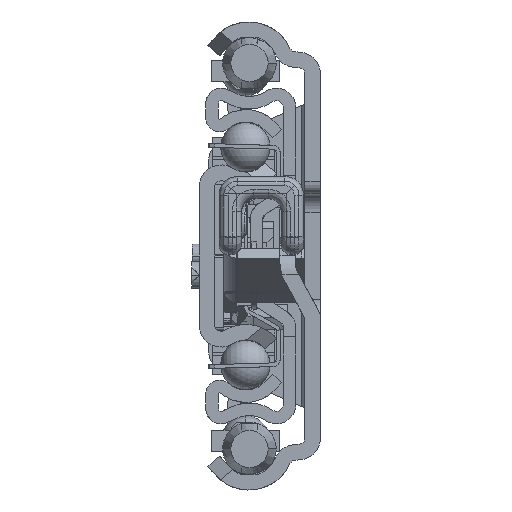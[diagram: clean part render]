
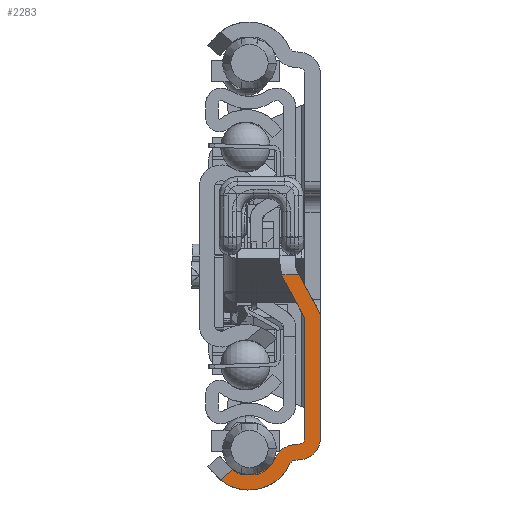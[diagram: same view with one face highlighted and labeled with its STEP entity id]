
A CAD part, left-side view. The second image highlights one B-rep face of the part: STEP entity #2283.
In plain terms, the highlighted planar face has unit normal (-1, 0, 0).
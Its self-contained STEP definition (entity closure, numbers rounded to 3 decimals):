
#45=DIRECTION('',(0.,0.769,-0.639));
#46=VECTOR('',#45,2.575);
#47=CARTESIAN_POINT('',(0.,14.098,-34.377));
#48=LINE('',#47,#46);
#49=CARTESIAN_POINT('',(0.,11.5,-30.4));
#50=DIRECTION('',(-1.,0.,0.));
#51=DIRECTION('',(0.,0.547,-0.837));
#52=AXIS2_PLACEMENT_3D('',#49,#50,#51);
#54=CARTESIAN_POINT('',(0.,4.008,-33.854));
#55=DIRECTION('',(-1.,0.,0.));
#56=DIRECTION('',(0.,0.087,0.996));
#57=AXIS2_PLACEMENT_3D('',#54,#55,#56);
#59=DIRECTION('',(0.,-0.996,0.087));
#60=VECTOR('',#59,0.904);
#61=CARTESIAN_POINT('',(0.,4.313,-30.368));
#62=LINE('',#61,#60);
#63=DIRECTION('',(0.,0.,1.));
#64=VECTOR('',#63,19.293);
#65=CARTESIAN_POINT('',(0.,2.5,-29.293));
#66=LINE('',#65,#64);
#67=DIRECTION('',(0.,-0.477,-0.879));
#68=VECTOR('',#67,6.873);
#69=CARTESIAN_POINT('',(0.,5.775,-3.958));
#70=LINE('',#69,#68);
#71=CARTESIAN_POINT('',(0.,0.5,-1.099));
#72=DIRECTION('',(-1.,0.,0.));
#73=DIRECTION('',(0.,0.946,-0.324));
#74=AXIS2_PLACEMENT_3D('',#71,#72,#73);
#76=DIRECTION('',(0.,1.,0.));
#77=VECTOR('',#76,2.78);
#78=CARTESIAN_POINT('',(0.,3.397,-3.04));
#79=LINE('',#78,#77);
#80=CARTESIAN_POINT('',(0.,2.5,-9.942));
#81=DIRECTION('',(1.,0.,0.));
#82=DIRECTION('',(0.,-0.879,0.477));
#83=AXIS2_PLACEMENT_3D('',#80,#81,#82);
#85=CARTESIAN_POINT('',(0.,3.5,-29.293));
#86=DIRECTION('',(-1.,0.,0.));
#87=DIRECTION('',(0.,-0.087,-0.996));
#88=AXIS2_PLACEMENT_3D('',#85,#86,#87);
#90=DIRECTION('',(0.,0.996,-0.087));
#91=VECTOR('',#90,0.904);
#92=CARTESIAN_POINT('',(0.,3.195,-32.78));
#93=LINE('',#92,#91);
#94=CARTESIAN_POINT('',(0.,11.5,-30.4));
#95=DIRECTION('',(1.,0.,0.));
#96=DIRECTION('',(0.,-0.908,-0.419));
#97=AXIS2_PLACEMENT_3D('',#94,#95,#96);
#615=DIRECTION('',(0.,0.,1.));
#616=VECTOR('',#615,19.351);
#617=CARTESIAN_POINT('',(0.,0.,-29.293));
#618=LINE('',#617,#616);
#1022=CARTESIAN_POINT('',(0.,16.079,-36.021));
#1075=CARTESIAN_POINT('',(0.,14.098,
-34.377));
#1364=CARTESIAN_POINT('',(0.,3.5,-29.293));
#1365=DIRECTION('',(1.,0.,0.));
#1366=DIRECTION('',(0.,-1.,0.));
#1367=AXIS2_PLACEMENT_3D('',#1364,#1365,#1366);
#1374=CARTESIAN_POINT('',(0.,4.008,-33.854));
#1375=DIRECTION('',(1.,0.,0.));
#1376=DIRECTION('',(0.,0.908,0.419));
#1377=AXIS2_PLACEMENT_3D('',#1374,#1375,#1376);
#1414=DIRECTION('',(0.,0.477,0.879));
#1415=VECTOR('',#1414,6.495);
#1416=CARTESIAN_POINT('',(0.,0.302,-8.751));
#1417=LINE('',#1416,#1415);
#1421=CARTESIAN_POINT('',(0.,3.397,-3.04));
#1535=CARTESIAN_POINT('',(0.,6.177,-3.04));
#1728=CARTESIAN_POINT('',(0.,2.5,-29.293));
#1729=CARTESIAN_POINT('',(0.,3.413,-30.289));
#1730=VERTEX_POINT('',#1728);
#1731=VERTEX_POINT('',#1729);
#1740=CARTESIAN_POINT('',(0.,4.916,-33.436));
#1741=CARTESIAN_POINT('',(0.,4.095,-32.858));
#1742=VERTEX_POINT('',#1740);
#1743=VERTEX_POINT('',#1741);
#1744=CARTESIAN_POINT('',(0.,4.313,-30.368));
#1745=CARTESIAN_POINT('',(0.,7.186,-32.389));
#1746=VERTEX_POINT('',#1744);
#1747=VERTEX_POINT('',#1745);
#1756=CARTESIAN_POINT('',(0.,3.195,-32.78));
#1757=CARTESIAN_POINT('',(0.,0.,-29.293));
#1758=VERTEX_POINT('',#1756);
#1759=VERTEX_POINT('',#1757);
#2128=VERTEX_POINT('',#1022);
#2136=VERTEX_POINT('',#1075);
#2161=CARTESIAN_POINT('',(0.,2.5,-10.));
#2162=VERTEX_POINT('',#2161);
#2199=VERTEX_POINT('',#1421);
#2200=CARTESIAN_POINT('',(0.,0.302,-8.751));
#2201=VERTEX_POINT('',#2200);
#2203=CARTESIAN_POINT('',(0.,0.,-9.942));
#2204=VERTEX_POINT('',#2203);
#2209=VERTEX_POINT('',#1535);
#2210=CARTESIAN_POINT('',(0.,5.775,-3.958));
#2211=VERTEX_POINT('',#2210);
#2244=CARTESIAN_POINT('',(0.,0.,0.));
#2245=DIRECTION('',(1.,0.,0.));
#2246=DIRECTION('',(0.,-1.,0.));
#2247=AXIS2_PLACEMENT_3D('',#2244,#2245,#2246);
#2248=PLANE('',#2247);
#2250=ORIENTED_EDGE('',*,*,#2249,.F.);
#2252=ORIENTED_EDGE('',*,*,#2251,.T.);
#2254=ORIENTED_EDGE('',*,*,#2253,.F.);
#2256=ORIENTED_EDGE('',*,*,#2255,.T.);
#2258=ORIENTED_EDGE('',*,*,#2257,.F.);
#2260=ORIENTED_EDGE('',*,*,#2259,.T.);
#2262=ORIENTED_EDGE('',*,*,#2261,.F.);
#2264=ORIENTED_EDGE('',*,*,#2263,.F.);
#2266=ORIENTED_EDGE('',*,*,#2265,.F.);
#2268=ORIENTED_EDGE('',*,*,#2267,.F.);
#2270=ORIENTED_EDGE('',*,*,#2269,.T.);
#2272=ORIENTED_EDGE('',*,*,#2271,.F.);
#2274=ORIENTED_EDGE('',*,*,#2273,.F.);
#2276=ORIENTED_EDGE('',*,*,#2275,.T.);
#2278=ORIENTED_EDGE('',*,*,#2277,.F.);
#2280=ORIENTED_EDGE('',*,*,#2279,.T.);
#2281=EDGE_LOOP('',(#2250,#2252,#2254,#2256,#2258,#2260,#2262,#2264,#2266,#2268,
#2270,#2272,#2274,#2276,#2278,#2280));
#2282=FACE_OUTER_BOUND('',#2281,.F.);
#53=CIRCLE('',#52,4.75);
#58=CIRCLE('',#57,3.5);
#75=CIRCLE('',#74,6.);
#84=CIRCLE('',#83,2.5);
#89=CIRCLE('',#88,3.5);
#98=CIRCLE('',#97,7.25);
#1368=CIRCLE('',#1367,1.);
#1378=CIRCLE('',#1377,1.);
#2249=EDGE_CURVE('',#2136,#2128,#48,.T.);
#2251=EDGE_CURVE('',#2136,#1747,#53,.T.);
#2253=EDGE_CURVE('',#1746,#1747,#58,.T.);
#2255=EDGE_CURVE('',#1746,#1731,#62,.T.);
#2257=EDGE_CURVE('',#1730,#1731,#1368,.T.);
#2259=EDGE_CURVE('',#1730,#2162,#66,.T.);
#2261=EDGE_CURVE('',#2211,#2162,#70,.T.);
#2263=EDGE_CURVE('',#2209,#2211,#75,.T.);
#2265=EDGE_CURVE('',#2199,#2209,#79,.T.);
#2267=EDGE_CURVE('',#2201,#2199,#1417,.T.);
#2269=EDGE_CURVE('',#2201,#2204,#84,.T.);
#2271=EDGE_CURVE('',#1759,#2204,#618,.T.);
#2273=EDGE_CURVE('',#1758,#1759,#89,.T.);
#2275=EDGE_CURVE('',#1758,#1743,#93,.T.);
#2277=EDGE_CURVE('',#1742,#1743,#1378,.T.);
#2279=EDGE_CURVE('',#1742,#2128,#98,.T.);
#2283=ADVANCED_FACE('',(#2282),#2248,.F.);
